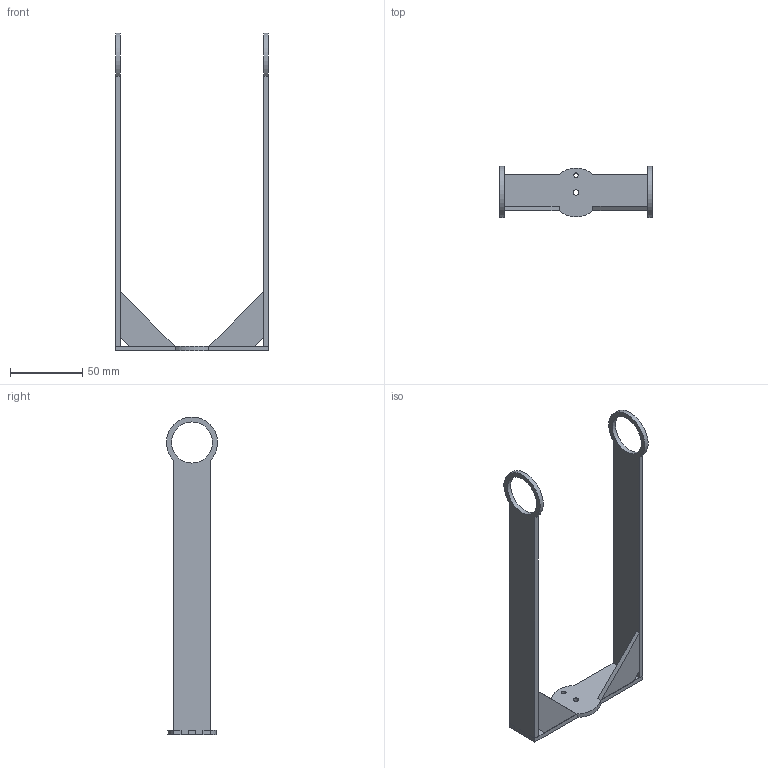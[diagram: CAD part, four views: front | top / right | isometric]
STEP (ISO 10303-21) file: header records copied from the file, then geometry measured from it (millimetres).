
FILE_DESCRIPTION(/* description */ ('STEP AP242','CAx-IF Rec.Pracs.---Representation and Presentation of Product Manufacturing Information (PMI)---4.0---2014-10-13','CAx-IF Rec.Pracs.---3D Tessellated Geometry---0.4---2014-09-14','2;1'),/* implementation_level */ '2;1');
FILE_NAME(/* name */ '636d009de11e720c696a9239',/* time_stamp */ '2022-11-10T13:46:05+00:00',/* author */ (''),/* organization */ (''),/* preprocessor_version */ 'ST-DEVELOPER v18.102',/* originating_system */ ' ',/* authorisation */ ' ');
FILE_SCHEMA (('AP242_MANAGED_MODEL_BASED_3D_ENGINEERING_MIM_LF { 1 0 10303 442 1 1 4 }'));
Length unit declared in the file: metre
Products named in the file (5): filament guide; left side arm; right side arm; glue up square 1; glue up square 2
Bounding box: 105.95 x 35.39 x 220.58 mm (x, y, z)
Volume: 45242.3 mm3; surface area: 34018.9 mm2
Topology: 5 solids, 5 shells, 70 faces, 181 edges, 121 vertices
Faces by surface type: plane 62, cylinder 8
Full cylindrical faces by diameter (mm): 3.175 x1, 3.95 x1, 28.5 x2
Entity records: 2221 total; most frequent: CARTESIAN_POINT 371, ORIENTED_EDGE 352, DIRECTION 342, EDGE_CURVE 176, LINE 160, VECTOR 160, VERTEX_POINT 120, AXIS2_PLACEMENT_3D 91
